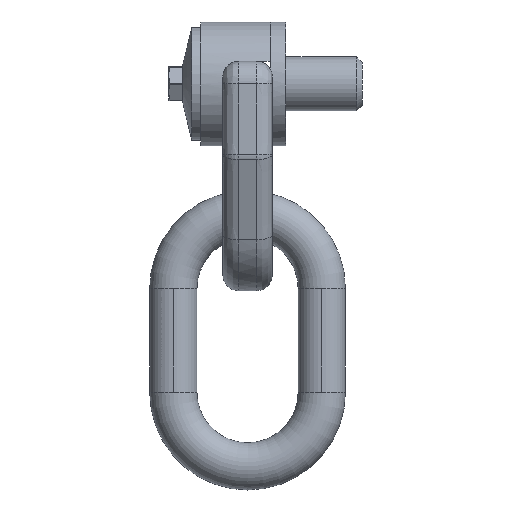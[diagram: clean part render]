
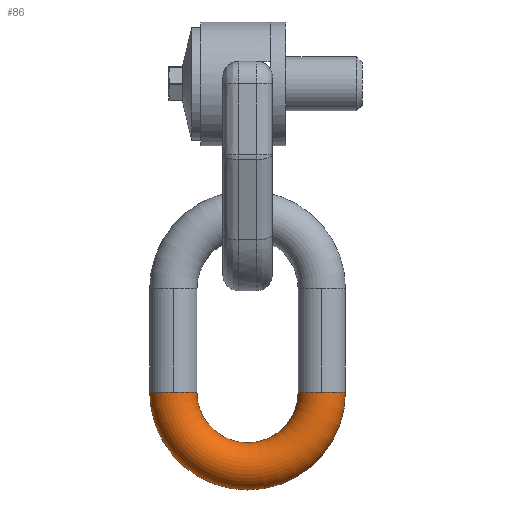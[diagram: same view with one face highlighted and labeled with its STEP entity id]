
A CAD part, left-side view. The second image highlights one B-rep face of the part: STEP entity #86.
In plain terms, the highlighted toroidal (fillet/blend) face has major radius 66 mm and minor radius 21 mm.
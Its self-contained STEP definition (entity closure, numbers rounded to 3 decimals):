
#79 = ORIENTED_EDGE ( 'NONE', *, *, #83, .T. ) ;
#80 = ORIENTED_EDGE ( 'NONE', *, *, #87, .T. ) ;
#81 = EDGE_LOOP ( 'NONE', ( #79, #80, #119, #115, #96, #103 ) ) ;
#82 = VERTEX_POINT ( 'NONE', #3611 ) ;
#83 = EDGE_CURVE ( 'NONE', #84, #82, #3609, .T. ) ;
#84 = VERTEX_POINT ( 'NONE', #3604 ) ;
#86 = ADVANCED_FACE ( 'NONE', ( #3603 ), #3602, .T. ) ;
#87 = EDGE_CURVE ( 'NONE', #82, #121, #3597, .T. ) ;
#96 = ORIENTED_EDGE ( 'NONE', *, *, #99, .F. ) ;
#99 = EDGE_CURVE ( 'NONE', #104, #100, #3628, .T. ) ;
#100 = VERTEX_POINT ( 'NONE', #3685 ) ;
#103 = ORIENTED_EDGE ( 'NONE', *, *, #110, .T. ) ;
#104 = VERTEX_POINT ( 'NONE', #3684 ) ;
#110 = EDGE_CURVE ( 'NONE', #104, #84, #3682, .T. ) ;
#115 = ORIENTED_EDGE ( 'NONE', *, *, #120, .F. ) ;
#119 = ORIENTED_EDGE ( 'NONE', *, *, #126, .F. ) ;
#120 = EDGE_CURVE ( 'NONE', #100, #124, #3673, .T. ) ;
#121 = VERTEX_POINT ( 'NONE', #3668 ) ;
#124 = VERTEX_POINT ( 'NONE', #3667 ) ;
#126 = EDGE_CURVE ( 'NONE', #124, #121, #3666, .T. ) ;
#3593 = DIRECTION ( 'NONE',  ( 0., 0., 1. ) ) ;
#3594 = DIRECTION ( 'NONE',  ( -1., 0., 0. ) ) ;
#3595 = CARTESIAN_POINT ( 'NONE',  ( 0., 0., -158. ) ) ;
#3596 = AXIS2_PLACEMENT_3D ( 'NONE', #3595, #3594, #3593 ) ;
#3597 = CIRCLE ( 'NONE', #3596, 87. ) ;
#3598 = DIRECTION ( 'NONE',  ( 0., 0., 1. ) ) ;
#3599 = DIRECTION ( 'NONE',  ( -1., 0., 0. ) ) ;
#3600 = CARTESIAN_POINT ( 'NONE',  ( 0., 0., -158. ) ) ;
#3601 = AXIS2_PLACEMENT_3D ( 'NONE', #3600, #3599, #3598 ) ;
#3602 = TOROIDAL_SURFACE ( 'NONE', #3601, 66., 21. ) ;
#3603 = FACE_OUTER_BOUND ( 'NONE', #81, .T. ) ;
#3604 = CARTESIAN_POINT ( 'NONE',  ( -21., 66., -158. ) ) ;
#3605 = DIRECTION ( 'NONE',  ( 0., 1., 0. ) ) ;
#3606 = DIRECTION ( 'NONE',  ( 0., 0., -1. ) ) ;
#3607 = CARTESIAN_POINT ( 'NONE',  ( 0., 66., -158. ) ) ;
#3608 = AXIS2_PLACEMENT_3D ( 'NONE', #3607, #3606, #3605 ) ;
#3609 = CIRCLE ( 'NONE', #3608, 21. ) ;
#3611 = CARTESIAN_POINT ( 'NONE',  ( 0., 87., -158. ) ) ;
#3624 = DIRECTION ( 'NONE',  ( 0., 0., 1. ) ) ;
#3625 = DIRECTION ( 'NONE',  ( -1., 0., 0. ) ) ;
#3626 = CARTESIAN_POINT ( 'NONE',  ( 0., 0., -158. ) ) ;
#3627 = AXIS2_PLACEMENT_3D ( 'NONE', #3626, #3625, #3624 ) ;
#3628 = CIRCLE ( 'NONE', #3627, 45. ) ;
#3662 = DIRECTION ( 'NONE',  ( 0., -1., 0. ) ) ;
#3663 = DIRECTION ( 'NONE',  ( 0., 0., 1. ) ) ;
#3664 = CARTESIAN_POINT ( 'NONE',  ( 0., -66., -158. ) ) ;
#3665 = AXIS2_PLACEMENT_3D ( 'NONE', #3664, #3663, #3662 ) ;
#3666 = CIRCLE ( 'NONE', #3665, 21. ) ;
#3667 = CARTESIAN_POINT ( 'NONE',  ( -21., -66., -158. ) ) ;
#3668 = CARTESIAN_POINT ( 'NONE',  ( 0., -87., -158. ) ) ;
#3669 = DIRECTION ( 'NONE',  ( 0., -1., 0. ) ) ;
#3670 = DIRECTION ( 'NONE',  ( 0., 0., 1. ) ) ;
#3671 = CARTESIAN_POINT ( 'NONE',  ( 0., -66., -158. ) ) ;
#3672 = AXIS2_PLACEMENT_3D ( 'NONE', #3671, #3670, #3669 ) ;
#3673 = CIRCLE ( 'NONE', #3672, 21. ) ;
#3678 = DIRECTION ( 'NONE',  ( 0., 1., 0. ) ) ;
#3679 = DIRECTION ( 'NONE',  ( 0., 0., -1. ) ) ;
#3680 = CARTESIAN_POINT ( 'NONE',  ( 0., 66., -158. ) ) ;
#3681 = AXIS2_PLACEMENT_3D ( 'NONE', #3680, #3679, #3678 ) ;
#3682 = CIRCLE ( 'NONE', #3681, 21. ) ;
#3684 = CARTESIAN_POINT ( 'NONE',  ( 0., 45., -158. ) ) ;
#3685 = CARTESIAN_POINT ( 'NONE',  ( 0., -45., -158. ) ) ;
